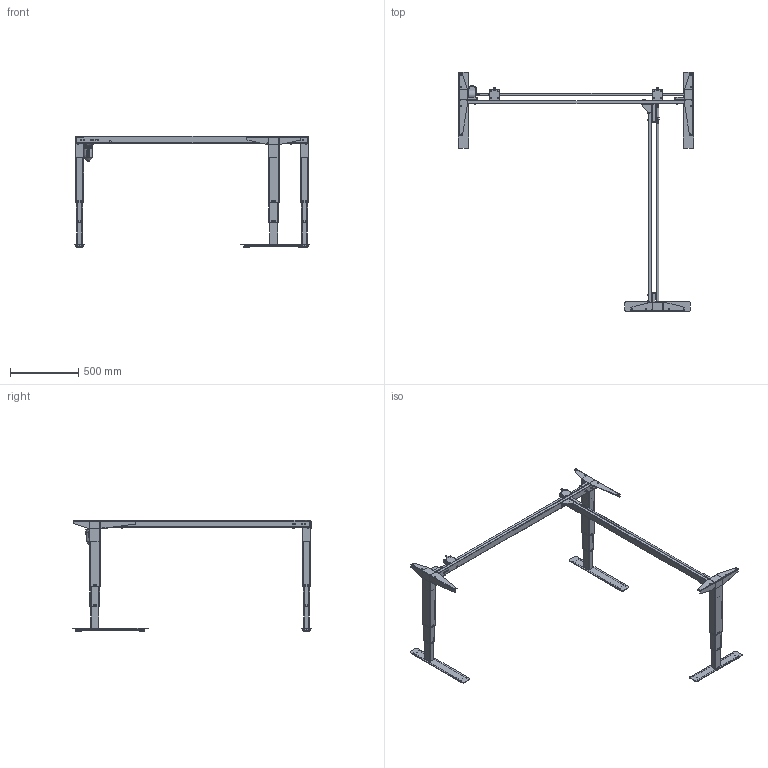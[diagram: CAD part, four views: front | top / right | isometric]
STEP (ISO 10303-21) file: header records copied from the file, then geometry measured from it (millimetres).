
FILE_DESCRIPTION (( 'STEP AP203' ), '1' );
FILE_NAME ('Tech-draw_501-37_XX172-174A.STEP', '2019-09-25T11:51:36', ( '' ), ( '' ), 'SwSTEP 2.0', 'SolidWorks 2018', '' );
FILE_SCHEMA (( 'CONFIG_CONTROL_DESIGN' ));
Length unit declared in the file: millimetre
Products named in the file (55): 341140_shell view; 340540_shell view; 341130; 344850; 344860_shell view; 344070_shell view; 134950_black1; 349810; 134920_black1; 148070_black1; 341800_black; 138780_black; 146260; 347920_152; 352610; 349800; 138750_black; 340560; 147240_black1; 340760; 147210_black; 344080; 138800_black1; 344250; 344430_black; 140320; 144260_152; 341120; 347910_152; 348990; 140150_shell view; 138770_black; 349820; 147540; 345230; 341170_shell view; 140140_172 shell view; 348720_shell view; 324520_black; 341180_shell view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
Assembly tree (111 placements, depth 6):
  Tech-draw_501-37_XX172-174A
    149250_501-37 XB172-174A
      140140_172 shell view
        140330
          345230
        140320
          138920
            344250
            340560
            341220
        140150_shell view  x2
          344910
      138760_black
        148070_black1
          341130
          341180_shell view
          348720_shell view
        138780_black
          138800_black1
            341150_shell view
            344070_shell view
            344080
          134950_black1
            341140_shell view
          341800_black  x4
        341800_black  x4
        324520_black  x2
        344430_black
        352610
      138750_black
        134920_black1
          341120
          341170_shell view
          340540_shell view
        138770_black
          138790_black1
            341150_shell view
            344070_shell view
            344080
          134950_black1
            341140_shell view
          341800_black  x4
        341800_black  x4
        324520_black  x2
      147210_black
        147230_black1
          341120
          344860_shell view
          340540_shell view
        147220_black
          147240_black1
            341150_shell view
            344840_shell view
            344850
          134950_black1
            341140_shell view
          341800_black  x4
        341800_black  x4
        324520_black  x2
      347910_152
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Bounding box: 1729 x 1758.6 x 817 mm (x, y, z)
Volume: 4408346.2 mm3; surface area: 4205530.3 mm2
Topology: 88 solids, 88 shells, 5505 faces, 14223 edges, 8989 vertices
Faces by surface type: plane 3077, cylinder 1789, bspline 309, cone 208, torus 122
Full cylindrical faces by diameter (mm): 2.8 x6, 3 x6, 3.5 x1, 4.5 x9, 4.6 x6, 5 x20, 5.5 x2, 6 x22, 6.2 x4, 6.5 x8, 7 x18, 7.5 x2, 7.6 x6, 8 x29, 10 x18, 11.9 x6, 12 x3, 13 x6, 14.3 x4, 15 x6, 16 x4, 17 x1, 18 x3, 20 x2, 37.6 x12, 60 x1
Entity records: 101395 total; most frequent: CARTESIAN_POINT 39401, ORIENTED_EDGE 11442, DIRECTION 11000, EDGE_CURVE 5721, AXIS2_PLACEMENT_3D 3962, VERTEX_POINT 3715, VECTOR 3076, LINE 3076
